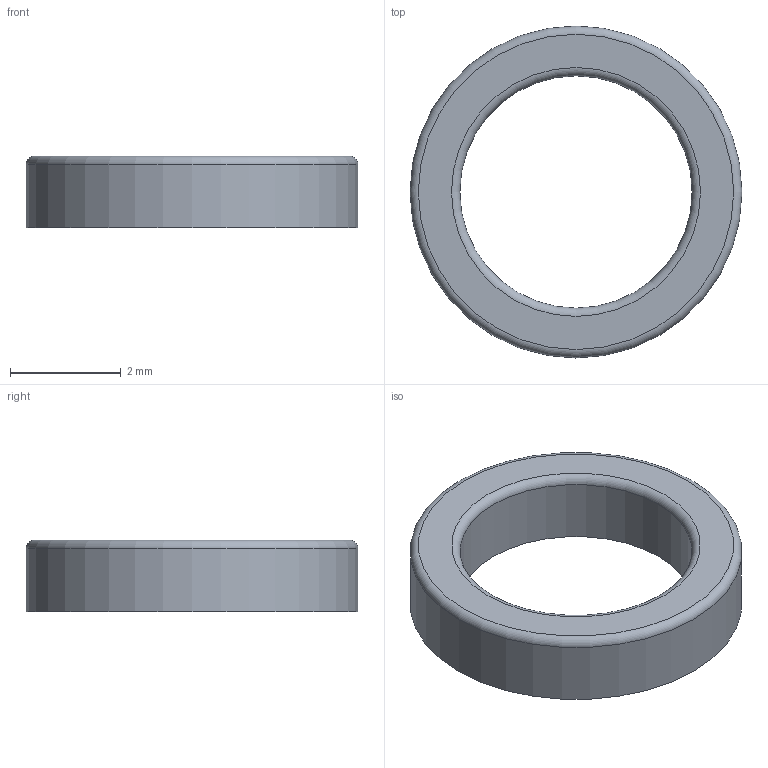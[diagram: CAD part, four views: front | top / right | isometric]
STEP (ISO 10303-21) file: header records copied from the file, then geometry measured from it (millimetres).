
FILE_DESCRIPTION(('Open CASCADE Model'),'2;1');
FILE_NAME('Open CASCADE Shape Model','2026-10-06T21:24:30',('Author'),( 'Open CASCADE'),'Open CASCADE STEP processor 7.9','Open CASCADE 7.9' ,'Unknown');
FILE_SCHEMA(('AUTOMOTIVE_DESIGN { 1 0 10303 214 1 1 1 1 }'));
Length unit declared in the file: millimetre
Products named in the file (1): Open CASCADE STEP translator 7.9 5
Bounding box: 6 x 6 x 1.3 mm (x, y, z)
Volume: 18.6 mm3; surface area: 68.4 mm2
Topology: 1 solids, 1 shells, 6 faces, 10 edges, 6 vertices
Faces by surface type: cylinder 2, torus 2, plane 2
Full cylindrical faces by diameter (mm): 4.2 x1, 6 x1
Entity records: 292 total; most frequent: CARTESIAN_POINT 59, DIRECTION 46, ORIENTED_EDGE 20, PCURVE 20, DEFINITIONAL_REPRESENTATION 20, AXIS2_PLACEMENT_3D 15, LINE 14, VECTOR 14
